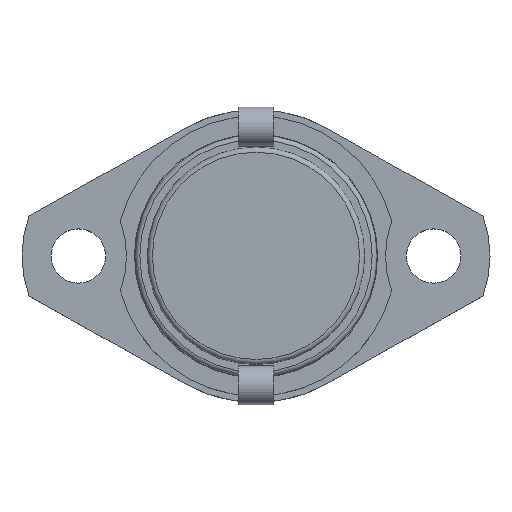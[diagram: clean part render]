
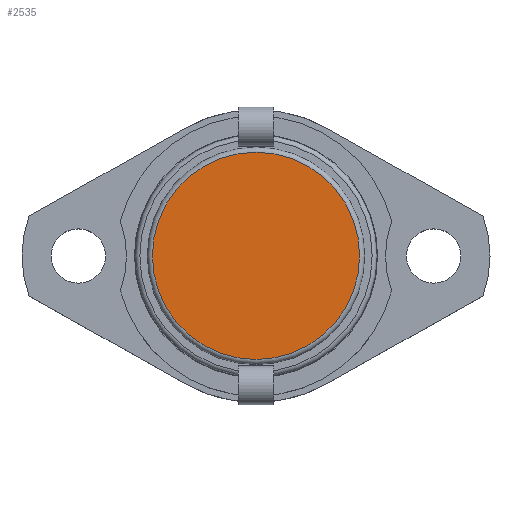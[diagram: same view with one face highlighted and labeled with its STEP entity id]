
A CAD part, top view. The second image highlights one B-rep face of the part: STEP entity #2535.
In plain terms, the highlighted planar face has unit normal (0, 0, 1).
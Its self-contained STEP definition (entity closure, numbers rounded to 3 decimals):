
#2519=CARTESIAN_POINT('',(0.0,12.4,18.));
#2520=DIRECTION('',(0.0,0.0,1.0));
#2521=DIRECTION('',(1.0,0.0,0.0));
#2522=AXIS2_PLACEMENT_3D('',#2519,#2520,#2521);
#2523=PLANE('',#2522);
#2524=CARTESIAN_POINT('',(0.0,24.8,18.));
#2525=VERTEX_POINT('',#2524);
#2526=CARTESIAN_POINT('',(0.0,0.0,18.));
#2527=DIRECTION('',(0.0,0.0,-1.0));
#2528=DIRECTION('',(0.0,1.0,0.0));
#2529=AXIS2_PLACEMENT_3D('',#2526,#2527,#2528);
#2530=CIRCLE('',#2529,24.8);
#2531=EDGE_CURVE('',#2525,#2525,#2530,.T.);
#2532=ORIENTED_EDGE('',*,*,#2531,.F.);
#2533=EDGE_LOOP('',(#2532));
#2534=FACE_OUTER_BOUND('',#2533,.T.);
#2535=ADVANCED_FACE('',(#2534),#2523,.T.);
